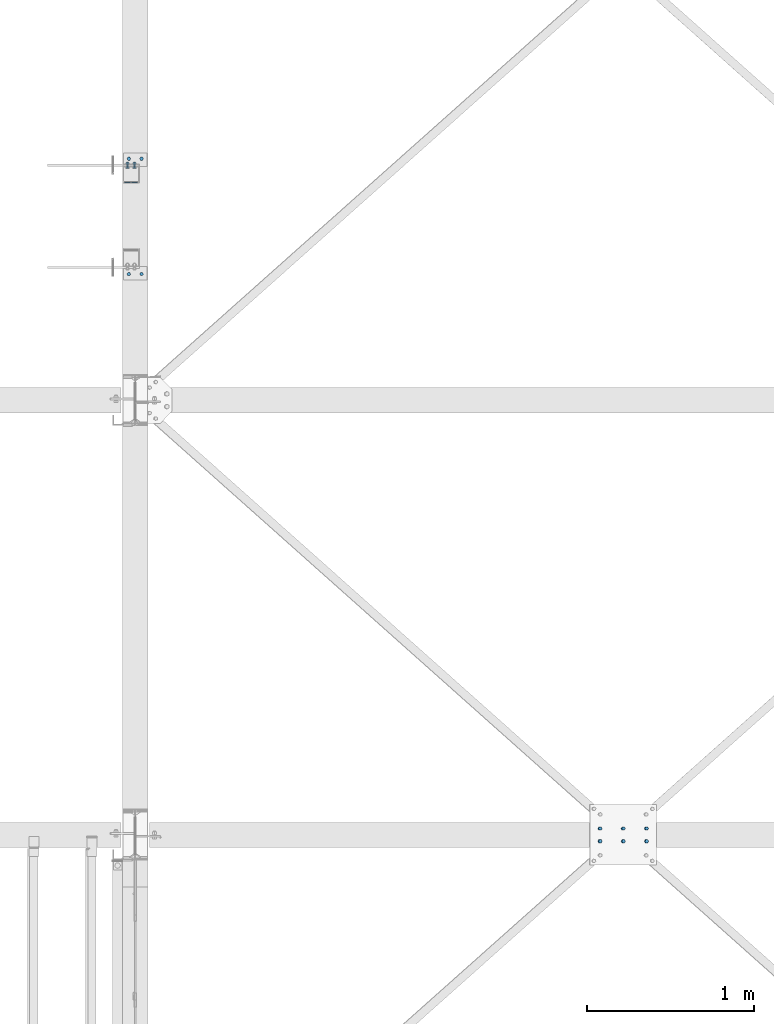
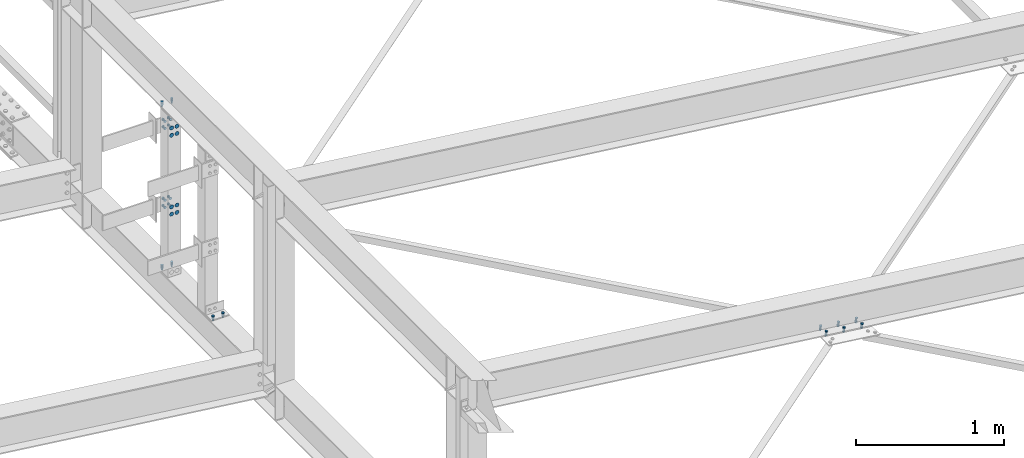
# One storey, part 141 of 3134: 8 mechanical fasteners, 5 elements without a shape of their own.
"""IFC2X3 building model written with IfcOpenShell, lengths in millimetres."""

from ifc_helpers import new_model, si_unit, frame, origin_with_axes, place, context, subcontext, project, spatial, faceted_brep, source, transform, mapped, material, type_object, element, aggregate, save


model = new_model("IFC2X3")

# Units and contexts
model_context = context("Model", 3, precision=1e-05, world=origin_with_axes())
body_context = subcontext(model_context, "Body", "Model", "MODEL_VIEW")
ifc_project = project(units=[si_unit("LENGTHUNIT", "METRE", prefix="MILLI"), si_unit("AREAUNIT", "SQUARE_METRE"), si_unit("VOLUMEUNIT", "CUBIC_METRE"), si_unit("MASSUNIT", "GRAM", prefix="KILO"), si_unit("TIMEUNIT", "SECOND"), si_unit("PLANEANGLEUNIT", "RADIAN"), si_unit("SOLIDANGLEUNIT", "STERADIAN"), si_unit("THERMODYNAMICTEMPERATUREUNIT", "DEGREE_CELSIUS"), si_unit("LUMINOUSINTENSITYUNIT", "LUMEN")], contexts=[model_context])

# Site, building, storey
site_placement = place(None, origin_with_axes())
site = spatial("IfcSite", under=ifc_project, at=site_placement, CompositionType="ELEMENT")
building_placement = place(site_placement, origin_with_axes())
building = spatial("IfcBuilding", under=site, at=building_placement, Name="Undefined", CompositionType="ELEMENT")
storey_placement = place(building_placement, origin_with_axes())
storey = spatial("IfcBuildingStorey", under=building, at=storey_placement, Name="Undefined", CompositionType="ELEMENT", Elevation=0.0)

# Assembly, mechanical fastener
assembly_1_placement = place(storey_placement, origin_with_axes())
assembly_1 = element("IfcElementAssembly", 1, at=assembly_1_placement, inside=storey, AssemblyPlace="NOTDEFINED", PredefinedType="RIGID_FRAME")
ifc_material = material(Name="8.8")
mechanical_fastener_type = type_object("IfcMechanicalFastenerType", Name="Bolt assembly")
shared_shape_1 = source(origin_with_axes(), body_context, "Body", "Brep", [
    faceted_brep([(10.9696551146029, -8.0, 0.0), (5.48482755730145, -8.0, 9.5), (-5.48482755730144, -8.0, 9.5), (-10.9696551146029, -8.0, 1.34339530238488e-15), (-5.48482755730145, -8.0, -9.5), (5.48482755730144, -8.0, -9.50000000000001), (5.48482755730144, 0.0, -9.50000000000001), (-5.48482755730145, 0.0, -9.5), (-10.9696551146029, 0.0, 1.34339530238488e-15), (-5.48482755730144, 0.0, 9.5), (5.48482755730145, 0.0, 9.5), (10.9696551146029, 0.0, 0.0), (6.0, 0.0, 0.0), (5.19615242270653, 0.0, 3.00000000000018), (2.99999999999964, 0.0, 5.19615242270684), (-6.21801588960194e-13, 0.0, 6.0), (-3.00000000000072, 0.0, 5.19615242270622), (-5.19615242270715, 0.0, 2.9999999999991), (-6.0, 0.0, -1.24360317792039e-12), (-5.19615242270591, 0.0, -3.00000000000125), (-2.99999999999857, 0.0, -5.19615242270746), (1.85874342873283e-12, 0.0, -6.0), (3.00000000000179, 0.0, -5.1961524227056), (5.19615242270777, 0.0, -2.99999999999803), (5.19615242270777, 35.0, -2.99999999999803), (3.00000000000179, 35.0, -5.1961524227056), (1.85874342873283e-12, 35.0, -6.0), (-2.99999999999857, 35.0, -5.19615242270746), (-5.19615242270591, 35.0, -3.00000000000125), (-6.0, 35.0, -1.24360317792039e-12), (-5.19615242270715, 35.0, 2.9999999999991), (-3.00000000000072, 35.0, 5.19615242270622), (-6.21801588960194e-13, 35.0, 6.0), (2.99999999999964, 35.0, 5.19615242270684), (5.19615242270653, 35.0, 3.00000000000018), (6.0, 35.0, 0.0), (10.9696551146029, 8.0, 0.0), (5.48482755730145, 8.0, 9.5), (-5.48482755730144, 8.0, 9.5), (-10.9696551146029, 8.0, 1.34339530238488e-15), (-5.48482755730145, 8.0, -9.5), (5.48482755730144, 8.0, -9.50000000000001), (5.48482755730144, 18.0, -9.50000000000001), (-5.48482755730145, 18.0, -9.5), (-10.9696551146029, 18.0, 1.34339530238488e-15), (-5.48482755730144, 18.0, 9.5), (5.48482755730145, 18.0, 9.5), (10.9696551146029, 18.0, 0.0)], [[[0, 1, 2, 3, 4, 5]], [[6, 7, 8, 9, 10, 11]], [[0, 11, 10, 1]], [[1, 10, 9, 2]], [[2, 9, 8, 3]], [[3, 8, 7, 4]], [[4, 7, 6, 5]], [[5, 6, 11, 0]], [[12, 13, 14, 15, 16, 17, 18, 19, 20, 21, 22, 23]], [[24, 25, 26, 27, 28, 29, 30, 31, 32, 33, 34, 35]], [[12, 35, 34, 13]], [[13, 34, 33, 14]], [[14, 33, 32, 15]], [[15, 32, 31, 16]], [[16, 31, 30, 17]], [[17, 30, 29, 18]], [[18, 29, 28, 19]], [[19, 28, 27, 20]], [[20, 27, 26, 21]], [[21, 26, 25, 22]], [[22, 25, 24, 23]], [[23, 24, 35, 12]], [[36, 37, 38, 39, 40, 41]], [[42, 43, 44, 45, 46, 47]], [[36, 47, 46, 37]], [[37, 46, 45, 38]], [[38, 45, 44, 39]], [[39, 44, 43, 40]], [[40, 43, 42, 41]], [[41, 42, 47, 36]]]),
    faceted_brep([(7.0, 0.0, 0.0), (6.06217782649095, 0.0, 3.50000000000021), (3.49999999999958, 0.0, 6.06217782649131), (-7.25435187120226e-13, 0.0, 7.0), (-3.50000000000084, 0.0, 6.06217782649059), (-6.06217782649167, 0.0, 3.49999999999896), (-7.0, 0.0, -1.45087037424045e-12), (-6.06217782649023, 0.0, -3.50000000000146), (-3.49999999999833, 0.0, -6.06217782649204), (2.1685340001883e-12, 0.0, -7.0), (3.50000000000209, 0.0, -6.06217782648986), (6.0621778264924, 0.0, -3.4999999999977), (6.0621778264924, 8.1, -3.4999999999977), (3.50000000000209, 8.1, -6.06217782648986), (2.1685340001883e-12, 8.1, -7.0), (-3.49999999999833, 8.1, -6.06217782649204), (-6.06217782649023, 8.1, -3.50000000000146), (-7.0, 8.1, -1.45087037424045e-12), (-6.06217782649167, 8.1, 3.49999999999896), (-3.50000000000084, 8.1, 6.06217782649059), (-7.25435187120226e-13, 8.1, 7.0), (3.49999999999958, 8.1, 6.06217782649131), (6.06217782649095, 8.1, 3.50000000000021), (7.0, 8.1, 0.0)], [[[0, 1, 2, 3, 4, 5, 6, 7, 8, 9, 10, 11]], [[12, 13, 14, 15, 16, 17, 18, 19, 20, 21, 22, 23]], [[0, 23, 22, 1]], [[1, 22, 21, 2]], [[2, 21, 20, 3]], [[3, 20, 19, 4]], [[4, 19, 18, 5]], [[5, 18, 17, 6]], [[6, 17, 16, 7]], [[7, 16, 15, 8]], [[8, 15, 14, 9]], [[9, 14, 13, 10]], [[10, 13, 12, 11]], [[11, 12, 23, 0]]]),
])
mechanical_fastener_1_placement = place(assembly_1_placement, frame((32487.0, 26095.0, 5593.0), z_axis=(0.0, 1.0, 0.0), x_axis=(1.0, 0.0, 0.0)))
mechanical_fastener_1 = element("IfcMechanicalFastener", 2, at=mechanical_fastener_1_placement, type_object=mechanical_fastener_type, material=ifc_material, Name="Bolt assembly", NominalDiameter=12.0, NominalLength=35.0, context=body_context, shape_type="MappedRepresentation", body=[
    mapped(shared_shape_1, transform((0.0, 0.0, 0.0))),
    mapped(shared_shape_1, transform((76.0, 0.0, 0.0))),
])
aggregate(assembly_1, [mechanical_fastener_1])

# Assembly, mechanical fasteners
assembly_2_placement = place(storey_placement, origin_with_axes())
assembly_2 = element("IfcElementAssembly", 3, at=assembly_2_placement, inside=storey, AssemblyPlace="NOTDEFINED", PredefinedType="RIGID_FRAME")
shared_shape_2 = source(origin_with_axes(), body_context, "Body", "Brep", [
    faceted_brep([(16.5, 0.0, 0.0), (14.289419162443, 0.0, 8.25000000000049), (8.24999999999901, 0.0, 14.2894191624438), (-1.70995436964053e-12, 0.0, 16.5), (-8.25000000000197, 0.0, 14.2894191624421), (-14.2894191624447, 0.0, 8.24999999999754), (-16.5, 0.0, -3.41990873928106e-12), (-14.2894191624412, 0.0, -8.25000000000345), (-8.24999999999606, 0.0, -14.2894191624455), (5.11154442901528e-12, 0.0, -16.5), (8.25000000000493, 0.0, -14.2894191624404), (14.2894191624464, 0.0, -8.24999999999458), (14.2894191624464, 4.1, -8.24999999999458), (8.25000000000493, 4.1, -14.2894191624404), (5.11154442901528e-12, 4.1, -16.5), (-8.24999999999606, 4.1, -14.2894191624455), (-14.2894191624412, 4.1, -8.25000000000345), (-16.5, 4.1, -3.41990873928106e-12), (-14.2894191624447, 4.1, 8.24999999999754), (-8.25000000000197, 4.1, 14.2894191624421), (-1.70995436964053e-12, 4.1, 16.5), (8.24999999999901, 4.1, 14.2894191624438), (14.289419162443, 4.1, 8.25000000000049), (16.5, 4.1, 0.0)], [[[0, 1, 2, 3, 4, 5, 6, 7, 8, 9, 10, 11]], [[12, 13, 14, 15, 16, 17, 18, 19, 20, 21, 22, 23]], [[0, 23, 22, 1]], [[1, 22, 21, 2]], [[2, 21, 20, 3]], [[3, 20, 19, 4]], [[4, 19, 18, 5]], [[5, 18, 17, 6]], [[6, 17, 16, 7]], [[7, 16, 15, 8]], [[8, 15, 14, 9]], [[9, 14, 13, 10]], [[10, 13, 12, 11]], [[11, 12, 23, 0]]]),
])
mechanical_fastener_2_placement = place(assembly_2_placement, frame((32500.0, 25950.0, 5470.0), z_axis=(1.0, 0.0, 0.0), x_axis=(0.0, 0.0, -1.0)))
mechanical_fastener_2 = element("IfcMechanicalFastener", 4, at=mechanical_fastener_2_placement, type_object=mechanical_fastener_type, material=ifc_material, Name="Bolt assembly", NominalDiameter=30.0, NominalLength=4.0, context=body_context, shape_type="MappedRepresentation", body=[
    mapped(shared_shape_2, transform((0.0, 0.0, -21.0))),
    mapped(shared_shape_2, transform((60.0, 0.0, -21.0))),
    mapped(shared_shape_2, transform((0.0, 0.0, 21.0))),
    mapped(shared_shape_2, transform((60.0, 0.0, 21.0))),
])
mechanical_fastener_3_placement = place(assembly_2_placement, frame((32500.0, 25950.0, 4820.0), z_axis=(1.0, 0.0, 0.0), x_axis=(0.0, 0.0, -1.0)))
mechanical_fastener_3 = element("IfcMechanicalFastener", 5, at=mechanical_fastener_3_placement, type_object=mechanical_fastener_type, material=ifc_material, Name="Bolt assembly", NominalDiameter=30.0, NominalLength=4.0, context=body_context, shape_type="MappedRepresentation", body=[
    mapped(shared_shape_2, transform((0.0, 0.0, -21.0))),
    mapped(shared_shape_2, transform((60.0, 0.0, -21.0))),
    mapped(shared_shape_2, transform((0.0, 0.0, 21.0))),
    mapped(shared_shape_2, transform((60.0, 0.0, 21.0))),
])
shared_shape_3 = source(origin_with_axes(), body_context, "Body", "Brep", [
    faceted_brep([(10.9696551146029, -12.0, 0.0), (5.48482755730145, -12.0, 9.5), (-5.48482755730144, -12.0, 9.5), (-10.9696551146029, -12.0, 1.34339530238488e-15), (-5.48482755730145, -12.0, -9.5), (5.48482755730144, -12.0, -9.50000000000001), (5.48482755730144, -4.0, -9.50000000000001), (-5.48482755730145, -4.0, -9.5), (-10.9696551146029, -4.0, 1.34339530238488e-15), (-5.48482755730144, -4.0, 9.5), (5.48482755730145, -4.0, 9.5), (10.9696551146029, -4.0, 0.0), (6.0, -4.0, 0.0), (5.19615242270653, -4.0, 3.00000000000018), (2.99999999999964, -4.0, 5.19615242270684), (-6.21801588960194e-13, -4.0, 6.0), (-3.00000000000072, -4.0, 5.19615242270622), (-5.19615242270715, -4.0, 2.9999999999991), (-6.0, -4.0, -1.24360317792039e-12), (-5.19615242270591, -4.0, -3.00000000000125), (-2.99999999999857, -4.0, -5.19615242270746), (1.85874342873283e-12, -4.0, -6.0), (3.00000000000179, -4.0, -5.1961524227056), (5.19615242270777, -4.0, -2.99999999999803), (5.19615242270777, 26.0, -2.99999999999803), (3.00000000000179, 26.0, -5.1961524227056), (1.85874342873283e-12, 26.0, -6.0), (-2.99999999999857, 26.0, -5.19615242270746), (-5.19615242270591, 26.0, -3.00000000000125), (-6.0, 26.0, -1.24360317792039e-12), (-5.19615242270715, 26.0, 2.9999999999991), (-3.00000000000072, 26.0, 5.19615242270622), (-6.21801588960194e-13, 26.0, 6.0), (2.99999999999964, 26.0, 5.19615242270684), (5.19615242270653, 26.0, 3.00000000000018), (6.0, 26.0, 0.0), (10.9696551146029, 12.0, 0.0), (5.48482755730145, 12.0, 9.5), (-5.48482755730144, 12.0, 9.5), (-10.9696551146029, 12.0, 1.34339530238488e-15), (-5.48482755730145, 12.0, -9.5), (5.48482755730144, 12.0, -9.50000000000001), (5.48482755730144, 22.0, -9.50000000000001), (-5.48482755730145, 22.0, -9.5), (-10.9696551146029, 22.0, 1.34339530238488e-15), (-5.48482755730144, 22.0, 9.5), (5.48482755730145, 22.0, 9.5), (10.9696551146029, 22.0, 0.0)], [[[0, 1, 2, 3, 4, 5]], [[6, 7, 8, 9, 10, 11]], [[0, 11, 10, 1]], [[1, 10, 9, 2]], [[2, 9, 8, 3]], [[3, 8, 7, 4]], [[4, 7, 6, 5]], [[5, 6, 11, 0]], [[12, 13, 14, 15, 16, 17, 18, 19, 20, 21, 22, 23]], [[24, 25, 26, 27, 28, 29, 30, 31, 32, 33, 34, 35]], [[12, 35, 34, 13]], [[13, 34, 33, 14]], [[14, 33, 32, 15]], [[15, 32, 31, 16]], [[16, 31, 30, 17]], [[17, 30, 29, 18]], [[18, 29, 28, 19]], [[19, 28, 27, 20]], [[20, 27, 26, 21]], [[21, 26, 25, 22]], [[22, 25, 24, 23]], [[23, 24, 35, 12]], [[36, 37, 38, 39, 40, 41]], [[42, 43, 44, 45, 46, 47]], [[36, 47, 46, 37]], [[37, 46, 45, 38]], [[38, 45, 44, 39]], [[39, 44, 43, 40]], [[40, 43, 42, 41]], [[41, 42, 47, 36]]]),
    faceted_brep([(7.0, -0.1, 0.0), (6.06217782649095, -0.1, 3.50000000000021), (3.49999999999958, -0.1, 6.06217782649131), (-7.25435187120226e-13, -0.1, 7.0), (-3.50000000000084, -0.1, 6.06217782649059), (-6.06217782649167, -0.1, 3.49999999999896), (-7.0, -0.1, -1.45087037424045e-12), (-6.06217782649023, -0.1, -3.50000000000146), (-3.49999999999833, -0.1, -6.06217782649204), (2.1685340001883e-12, -0.1, -7.0), (3.50000000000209, -0.1, -6.06217782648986), (6.0621778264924, -0.1, -3.4999999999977), (6.0621778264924, 12.0, -3.4999999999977), (3.50000000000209, 12.0, -6.06217782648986), (2.1685340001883e-12, 12.0, -7.0), (-3.49999999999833, 12.0, -6.06217782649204), (-6.06217782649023, 12.0, -3.50000000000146), (-7.0, 12.0, -1.45087037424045e-12), (-6.06217782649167, 12.0, 3.49999999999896), (-3.50000000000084, 12.0, 6.06217782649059), (-7.25435187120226e-13, 12.0, 7.0), (3.49999999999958, 12.0, 6.06217782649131), (6.06217782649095, 12.0, 3.50000000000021), (7.0, 12.0, 0.0), (7.0, -3.9, 0.0), (6.06217782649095, -3.9, 3.50000000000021), (3.49999999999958, -3.9, 6.06217782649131), (-7.25435187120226e-13, -3.9, 7.0), (-3.50000000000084, -3.9, 6.06217782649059), (-6.06217782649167, -3.9, 3.49999999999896), (-7.0, -3.9, -1.45087037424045e-12), (-6.06217782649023, -3.9, -3.50000000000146), (-3.49999999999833, -3.9, -6.06217782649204), (2.1685340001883e-12, -3.9, -7.0), (3.50000000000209, -3.9, -6.06217782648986), (6.0621778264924, -3.9, -3.4999999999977), (6.0621778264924, 0.0999999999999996, -3.4999999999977), (3.50000000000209, 0.0999999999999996, -6.06217782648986), (2.1685340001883e-12, 0.0999999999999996, -7.0), (-3.49999999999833, 0.0999999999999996, -6.06217782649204), (-6.06217782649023, 0.0999999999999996, -3.50000000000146), (-7.0, 0.0999999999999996, -1.45087037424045e-12), (-6.06217782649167, 0.0999999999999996, 3.49999999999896), (-3.50000000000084, 0.0999999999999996, 6.06217782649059), (-7.25435187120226e-13, 0.0999999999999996, 7.0), (3.49999999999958, 0.0999999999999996, 6.06217782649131), (6.06217782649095, 0.0999999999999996, 3.50000000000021), (7.0, 0.0999999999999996, 0.0)], [[[0, 1, 2, 3, 4, 5, 6, 7, 8, 9, 10, 11]], [[12, 13, 14, 15, 16, 17, 18, 19, 20, 21, 22, 23]], [[0, 23, 22, 1]], [[1, 22, 21, 2]], [[2, 21, 20, 3]], [[3, 20, 19, 4]], [[4, 19, 18, 5]], [[5, 18, 17, 6]], [[6, 17, 16, 7]], [[7, 16, 15, 8]], [[8, 15, 14, 9]], [[9, 14, 13, 10]], [[10, 13, 12, 11]], [[11, 12, 23, 0]], [[24, 25, 26, 27, 28, 29, 30, 31, 32, 33, 34, 35]], [[36, 37, 38, 39, 40, 41, 42, 43, 44, 45, 46, 47]], [[24, 47, 46, 25]], [[25, 46, 45, 26]], [[26, 45, 44, 27]], [[27, 44, 43, 28]], [[28, 43, 42, 29]], [[29, 42, 41, 30]], [[30, 41, 40, 31]], [[31, 40, 39, 32]], [[32, 39, 38, 33]], [[33, 38, 37, 34]], [[34, 37, 36, 35]], [[35, 36, 47, 24]]]),
])
mechanical_fastener_4_placement = place(assembly_2_placement, frame((32500.0, 26050.0, 5470.0), z_axis=(1.0, 0.0, 0.0), x_axis=(0.0, 0.0, -1.0)))
mechanical_fastener_4 = element("IfcMechanicalFastener", 6, at=mechanical_fastener_4_placement, type_object=mechanical_fastener_type, material=ifc_material, Name="Bolt assembly", NominalDiameter=12.0, NominalLength=30.0, context=body_context, shape_type="MappedRepresentation", body=[
    mapped(shared_shape_3, transform((0.0, 0.0, -21.0))),
    mapped(shared_shape_3, transform((60.0, 0.0, -21.0))),
    mapped(shared_shape_3, transform((0.0, 0.0, 21.0))),
    mapped(shared_shape_3, transform((60.0, 0.0, 21.0))),
])
mechanical_fastener_5_placement = place(assembly_2_placement, frame((32500.0, 26050.0, 4820.0), z_axis=(1.0, 0.0, 0.0), x_axis=(0.0, 0.0, -1.0)))
mechanical_fastener_5 = element("IfcMechanicalFastener", 7, at=mechanical_fastener_5_placement, type_object=mechanical_fastener_type, material=ifc_material, Name="Bolt assembly", NominalDiameter=12.0, NominalLength=30.0, context=body_context, shape_type="MappedRepresentation", body=[
    mapped(shared_shape_3, transform((0.0, 0.0, -21.0))),
    mapped(shared_shape_3, transform((60.0, 0.0, -21.0))),
    mapped(shared_shape_3, transform((0.0, 0.0, 21.0))),
    mapped(shared_shape_3, transform((60.0, 0.0, 21.0))),
])
aggregate(assembly_2, [mechanical_fastener_2, mechanical_fastener_3, mechanical_fastener_4, mechanical_fastener_5])

# Assembly, mechanical fastener
assembly_3_placement = place(storey_placement, origin_with_axes())
assembly_3 = element("IfcElementAssembly", 8, at=assembly_3_placement, inside=storey, AssemblyPlace="NOTDEFINED", PredefinedType="RIGID_FRAME")
shared_shape_4 = source(origin_with_axes(), body_context, "Body", "Brep", [
    faceted_brep([(10.9696551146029, -16.0, 0.0), (5.48482755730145, -16.0, 9.5), (-5.48482755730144, -16.0, 9.5), (-10.9696551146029, -16.0, 1.34339530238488e-15), (-5.48482755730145, -16.0, -9.5), (5.48482755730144, -16.0, -9.50000000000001), (5.48482755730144, -8.0, -9.50000000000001), (-5.48482755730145, -8.0, -9.5), (-10.9696551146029, -8.0, 1.34339530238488e-15), (-5.48482755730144, -8.0, 9.5), (5.48482755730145, -8.0, 9.5), (10.9696551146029, -8.0, 0.0), (6.0, -8.0, 0.0), (5.19615242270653, -8.0, 3.00000000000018), (2.99999999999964, -8.0, 5.19615242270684), (-6.21801588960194e-13, -8.0, 6.0), (-3.00000000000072, -8.0, 5.19615242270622), (-5.19615242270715, -8.0, 2.9999999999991), (-6.0, -8.0, -1.24360317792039e-12), (-5.19615242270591, -8.0, -3.00000000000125), (-2.99999999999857, -8.0, -5.19615242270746), (1.85874342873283e-12, -8.0, -6.0), (3.00000000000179, -8.0, -5.1961524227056), (5.19615242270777, -8.0, -2.99999999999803), (5.19615242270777, 27.0, -2.99999999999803), (3.00000000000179, 27.0, -5.1961524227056), (1.85874342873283e-12, 27.0, -6.0), (-2.99999999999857, 27.0, -5.19615242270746), (-5.19615242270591, 27.0, -3.00000000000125), (-6.0, 27.0, -1.24360317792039e-12), (-5.19615242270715, 27.0, 2.9999999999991), (-3.00000000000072, 27.0, 5.19615242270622), (-6.21801588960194e-13, 27.0, 6.0), (2.99999999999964, 27.0, 5.19615242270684), (5.19615242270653, 27.0, 3.00000000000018), (6.0, 27.0, 0.0), (10.9696551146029, 0.0, 0.0), (5.48482755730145, 0.0, 9.5), (-5.48482755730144, 0.0, 9.5), (-10.9696551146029, 0.0, 1.34339530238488e-15), (-5.48482755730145, 0.0, -9.5), (5.48482755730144, 0.0, -9.50000000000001), (5.48482755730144, 10.0, -9.50000000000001), (-5.48482755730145, 10.0, -9.5), (-10.9696551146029, 10.0, 1.34339530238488e-15), (-5.48482755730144, 10.0, 9.5), (5.48482755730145, 10.0, 9.5), (10.9696551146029, 10.0, 0.0)], [[[0, 1, 2, 3, 4, 5]], [[6, 7, 8, 9, 10, 11]], [[0, 11, 10, 1]], [[1, 10, 9, 2]], [[2, 9, 8, 3]], [[3, 8, 7, 4]], [[4, 7, 6, 5]], [[5, 6, 11, 0]], [[12, 13, 14, 15, 16, 17, 18, 19, 20, 21, 22, 23]], [[24, 25, 26, 27, 28, 29, 30, 31, 32, 33, 34, 35]], [[12, 35, 34, 13]], [[13, 34, 33, 14]], [[14, 33, 32, 15]], [[15, 32, 31, 16]], [[16, 31, 30, 17]], [[17, 30, 29, 18]], [[18, 29, 28, 19]], [[19, 28, 27, 20]], [[20, 27, 26, 21]], [[21, 26, 25, 22]], [[22, 25, 24, 23]], [[23, 24, 35, 12]], [[36, 37, 38, 39, 40, 41]], [[42, 43, 44, 45, 46, 47]], [[36, 47, 46, 37]], [[37, 46, 45, 38]], [[38, 45, 44, 39]], [[39, 44, 43, 40]], [[40, 43, 42, 41]], [[41, 42, 47, 36]]]),
    faceted_brep([(7.0, -8.0, 0.0), (6.06217782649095, -8.0, 3.50000000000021), (3.49999999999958, -8.0, 6.06217782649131), (-7.25435187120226e-13, -8.0, 7.0), (-3.50000000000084, -8.0, 6.06217782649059), (-6.06217782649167, -8.0, 3.49999999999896), (-7.0, -8.0, -1.45087037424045e-12), (-6.06217782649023, -8.0, -3.50000000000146), (-3.49999999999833, -8.0, -6.06217782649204), (2.1685340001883e-12, -8.0, -7.0), (3.50000000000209, -8.0, -6.06217782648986), (6.0621778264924, -8.0, -3.4999999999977), (6.0621778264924, 0.0999999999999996, -3.4999999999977), (3.50000000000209, 0.0999999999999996, -6.06217782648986), (2.1685340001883e-12, 0.0999999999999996, -7.0), (-3.49999999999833, 0.0999999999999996, -6.06217782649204), (-6.06217782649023, 0.0999999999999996, -3.50000000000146), (-7.0, 0.0999999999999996, -1.45087037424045e-12), (-6.06217782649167, 0.0999999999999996, 3.49999999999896), (-3.50000000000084, 0.0999999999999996, 6.06217782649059), (-7.25435187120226e-13, 0.0999999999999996, 7.0), (3.49999999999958, 0.0999999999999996, 6.06217782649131), (6.06217782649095, 0.0999999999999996, 3.50000000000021), (7.0, 0.0999999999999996, 0.0)], [[[0, 1, 2, 3, 4, 5, 6, 7, 8, 9, 10, 11]], [[12, 13, 14, 15, 16, 17, 18, 19, 20, 21, 22, 23]], [[0, 23, 22, 1]], [[1, 22, 21, 2]], [[2, 21, 20, 3]], [[3, 20, 19, 4]], [[4, 19, 18, 5]], [[5, 18, 17, 6]], [[6, 17, 16, 7]], [[7, 16, 15, 8]], [[8, 15, 14, 9]], [[9, 14, 13, 10]], [[10, 13, 12, 11]], [[11, 12, 23, 0]]]),
])
mechanical_fastener_6_placement = place(assembly_3_placement, frame((32487.0, 25405.0, 4237.0), z_axis=(0.0, 1.0, 0.0), x_axis=(1.0, 0.0, 0.0)))
mechanical_fastener_6 = element("IfcMechanicalFastener", 9, at=mechanical_fastener_6_placement, type_object=mechanical_fastener_type, material=ifc_material, Name="Bolt assembly", NominalDiameter=12.0, NominalLength=35.0, context=body_context, shape_type="MappedRepresentation", body=[
    mapped(shared_shape_4, transform((0.0, 0.0, 0.0))),
    mapped(shared_shape_4, transform((76.0, 0.0, 0.0))),
])
aggregate(assembly_3, [mechanical_fastener_6])

assembly_4_placement = place(storey_placement, origin_with_axes())
assembly_4 = element("IfcElementAssembly", 10, at=assembly_4_placement, inside=storey, AssemblyPlace="NOTDEFINED", PredefinedType="RIGID_FRAME")
mechanical_fastener_7_placement = place(assembly_4_placement, frame((32487.0, 26095.0, 4237.0), z_axis=(0.0, 1.0, 0.0), x_axis=(1.0, 0.0, 0.0)))
mechanical_fastener_7 = element("IfcMechanicalFastener", 11, at=mechanical_fastener_7_placement, type_object=mechanical_fastener_type, material=ifc_material, Name="Bolt assembly", NominalDiameter=12.0, NominalLength=35.0, context=body_context, shape_type="MappedRepresentation", body=[
    mapped(shared_shape_4, transform((0.0, 0.0, 0.0))),
    mapped(shared_shape_4, transform((76.0, 0.0, 0.0))),
])
aggregate(assembly_4, [mechanical_fastener_7])

assembly_5_placement = place(storey_placement, origin_with_axes())
assembly_5 = element("IfcElementAssembly", 12, at=assembly_5_placement, inside=storey, Name="300", AssemblyPlace="NOTDEFINED", PredefinedType="RIGID_FRAME")
shared_shape_5 = source(origin_with_axes(), body_context, "Body", "Brep", [
    faceted_brep([(10.9696551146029, -17.1999998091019, 0.0), (5.48482755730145, -17.1999998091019, 9.5), (-5.48482755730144, -17.1999998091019, 9.5), (-10.9696551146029, -17.1999998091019, 1.34339530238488e-15), (-5.48482755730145, -17.1999998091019, -9.5), (5.48482755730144, -17.1999998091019, -9.50000000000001), (5.48482755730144, -9.19999978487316, -9.50000000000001), (-5.48482755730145, -9.19999978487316, -9.5), (-10.9696551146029, -9.19999978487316, 1.34339530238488e-15), (-5.48482755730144, -9.19999978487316, 9.5), (5.48482755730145, -9.19999978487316, 9.5), (10.9696551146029, -9.19999978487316, 0.0), (6.0, -9.19999978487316, 0.0), (5.19615242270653, -9.19999978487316, 3.00000000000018), (2.99999999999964, -9.19999978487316, 5.19615242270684), (-6.21801588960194e-13, -9.19999978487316, 6.0), (-3.00000000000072, -9.19999978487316, 5.19615242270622), (-5.19615242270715, -9.19999978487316, 2.9999999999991), (-6.0, -9.19999978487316, -1.24360317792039e-12), (-5.19615242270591, -9.19999978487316, -3.00000000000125), (-2.99999999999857, -9.19999978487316, -5.19615242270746), (1.85874342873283e-12, -9.19999978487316, -6.0), (3.00000000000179, -9.19999978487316, -5.1961524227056), (5.19615242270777, -9.19999978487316, -2.99999999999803), (5.19615242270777, 25.8000002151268, -2.99999999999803), (3.00000000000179, 25.8000002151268, -5.1961524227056), (1.85874342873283e-12, 25.8000002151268, -6.0), (-2.99999999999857, 25.8000002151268, -5.19615242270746), (-5.19615242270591, 25.8000002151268, -3.00000000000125), (-6.0, 25.8000002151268, -1.24360317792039e-12), (-5.19615242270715, 25.8000002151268, 2.9999999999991), (-3.00000000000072, 25.8000002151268, 5.19615242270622), (-6.21801588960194e-13, 25.8000002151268, 6.0), (2.99999999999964, 25.8000002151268, 5.19615242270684), (5.19615242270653, 25.8000002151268, 3.00000000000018), (6.0, 25.8000002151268, 0.0), (10.9696551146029, 8.0, 0.0), (5.48482755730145, 8.0, 9.5), (-5.48482755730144, 8.0, 9.5), (-10.9696551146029, 8.0, 1.34339530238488e-15), (-5.48482755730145, 8.0, -9.5), (5.48482755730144, 8.0, -9.50000000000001), (5.48482755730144, 18.0, -9.50000000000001), (-5.48482755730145, 18.0, -9.5), (-10.9696551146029, 18.0, 1.34339530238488e-15), (-5.48482755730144, 18.0, 9.5), (5.48482755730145, 18.0, 9.5), (10.9696551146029, 18.0, 0.0)], [[[0, 1, 2, 3, 4, 5]], [[6, 7, 8, 9, 10, 11]], [[0, 11, 10, 1]], [[1, 10, 9, 2]], [[2, 9, 8, 3]], [[3, 8, 7, 4]], [[4, 7, 6, 5]], [[5, 6, 11, 0]], [[12, 13, 14, 15, 16, 17, 18, 19, 20, 21, 22, 23]], [[24, 25, 26, 27, 28, 29, 30, 31, 32, 33, 34, 35]], [[12, 35, 34, 13]], [[13, 34, 33, 14]], [[14, 33, 32, 15]], [[15, 32, 31, 16]], [[16, 31, 30, 17]], [[17, 30, 29, 18]], [[18, 29, 28, 19]], [[19, 28, 27, 20]], [[20, 27, 26, 21]], [[21, 26, 25, 22]], [[22, 25, 24, 23]], [[23, 24, 35, 12]], [[36, 37, 38, 39, 40, 41]], [[42, 43, 44, 45, 46, 47]], [[36, 47, 46, 37]], [[37, 46, 45, 38]], [[38, 45, 44, 39]], [[39, 44, 43, 40]], [[40, 43, 42, 41]], [[41, 42, 47, 36]]]),
    faceted_brep([(7.0, -0.1, 0.0), (6.06217782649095, -0.1, 3.50000000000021), (3.49999999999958, -0.1, 6.06217782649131), (-7.25435187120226e-13, -0.1, 7.0), (-3.50000000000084, -0.1, 6.06217782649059), (-6.06217782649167, -0.1, 3.49999999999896), (-7.0, -0.1, -1.45087037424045e-12), (-6.06217782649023, -0.1, -3.50000000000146), (-3.49999999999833, -0.1, -6.06217782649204), (2.1685340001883e-12, -0.1, -7.0), (3.50000000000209, -0.1, -6.06217782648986), (6.0621778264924, -0.1, -3.4999999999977), (6.0621778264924, 8.0000000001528, -3.4999999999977), (3.50000000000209, 8.0000000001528, -6.06217782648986), (2.1685340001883e-12, 8.0000000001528, -7.0), (-3.49999999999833, 8.0000000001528, -6.06217782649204), (-6.06217782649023, 8.0000000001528, -3.50000000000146), (-7.0, 8.0000000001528, -1.45087037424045e-12), (-6.06217782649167, 8.0000000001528, 3.49999999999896), (-3.50000000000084, 8.0000000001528, 6.06217782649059), (-7.25435187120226e-13, 8.0000000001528, 7.0), (3.49999999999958, 8.0000000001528, 6.06217782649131), (6.06217782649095, 8.0000000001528, 3.50000000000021), (7.0, 8.0000000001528, 0.0), (7.0, -9.09999980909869, 0.0), (6.06217782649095, -9.09999980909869, 3.50000000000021), (3.49999999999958, -9.09999980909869, 6.06217782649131), (-7.25435187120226e-13, -9.09999980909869, 7.0), (-3.50000000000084, -9.09999980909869, 6.06217782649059), (-6.06217782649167, -9.09999980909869, 3.49999999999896), (-7.0, -9.09999980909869, -1.45087037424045e-12), (-6.06217782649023, -9.09999980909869, -3.50000000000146), (-3.49999999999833, -9.09999980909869, -6.06217782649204), (2.1685340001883e-12, -9.09999980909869, -7.0), (3.50000000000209, -9.09999980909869, -6.06217782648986), (6.0621778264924, -9.09999980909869, -3.4999999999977), (6.0621778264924, 0.0999999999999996, -3.4999999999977), (3.50000000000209, 0.0999999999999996, -6.06217782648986), (2.1685340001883e-12, 0.0999999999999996, -7.0), (-3.49999999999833, 0.0999999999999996, -6.06217782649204), (-6.06217782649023, 0.0999999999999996, -3.50000000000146), (-7.0, 0.0999999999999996, -1.45087037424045e-12), (-6.06217782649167, 0.0999999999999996, 3.49999999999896), (-3.50000000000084, 0.0999999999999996, 6.06217782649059), (-7.25435187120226e-13, 0.0999999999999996, 7.0), (3.49999999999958, 0.0999999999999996, 6.06217782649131), (6.06217782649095, 0.0999999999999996, 3.50000000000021), (7.0, 0.0999999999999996, 0.0)], [[[0, 1, 2, 3, 4, 5, 6, 7, 8, 9, 10, 11]], [[12, 13, 14, 15, 16, 17, 18, 19, 20, 21, 22, 23]], [[0, 23, 22, 1]], [[1, 22, 21, 2]], [[2, 21, 20, 3]], [[3, 20, 19, 4]], [[4, 19, 18, 5]], [[5, 18, 17, 6]], [[6, 17, 16, 7]], [[7, 16, 15, 8]], [[8, 15, 14, 9]], [[9, 14, 13, 10]], [[10, 13, 12, 11]], [[11, 12, 23, 0]], [[24, 25, 26, 27, 28, 29, 30, 31, 32, 33, 34, 35]], [[36, 37, 38, 39, 40, 41, 42, 43, 44, 45, 46, 47]], [[24, 47, 46, 25]], [[25, 46, 45, 26]], [[26, 45, 44, 27]], [[27, 44, 43, 28]], [[28, 43, 42, 29]], [[29, 42, 41, 30]], [[30, 41, 40, 31]], [[31, 40, 39, 32]], [[32, 39, 38, 33]], [[33, 38, 37, 34]], [[34, 37, 36, 35]], [[35, 36, 47, 24]]]),
])
mechanical_fastener_8_placement = place(assembly_5_placement, frame((35583.2022067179, 22050.0, 5146.25993624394), z_axis=(0.0, -1.0, 0.0), x_axis=(-0.992623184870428, 0.0, 0.121240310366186)))
mechanical_fastener_8 = element("IfcMechanicalFastener", 13, at=mechanical_fastener_8_placement, type_object=mechanical_fastener_type, material=ifc_material, Name="Bolt assembly", NominalDiameter=12.0, NominalLength=35.0, context=body_context, shape_type="MappedRepresentation", body=[
    mapped(shared_shape_5, transform((0.0, 0.0, -38.0))),
    mapped(shared_shape_5, transform((140.000000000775, 5.85714587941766e-10, -38.0))),
    mapped(shared_shape_5, transform((279.999999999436, -4.74756234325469e-10, -38.0))),
    mapped(shared_shape_5, transform((0.0, 0.0, 38.0))),
    mapped(shared_shape_5, transform((140.000000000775, 5.85714587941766e-10, 38.0))),
    mapped(shared_shape_5, transform((279.999999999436, -4.74756234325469e-10, 38.0))),
])
aggregate(assembly_5, [mechanical_fastener_8])

save(model, "model.ifc")
